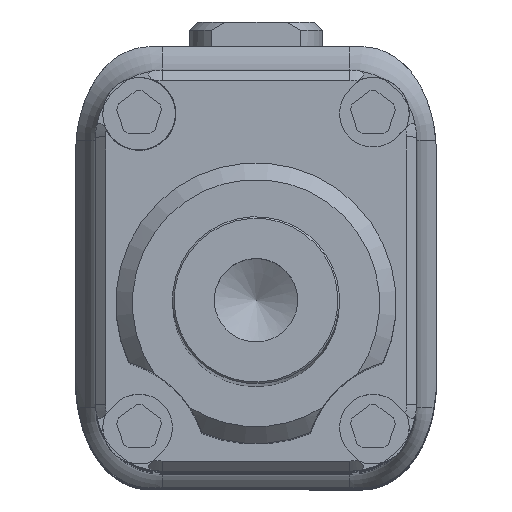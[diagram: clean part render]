
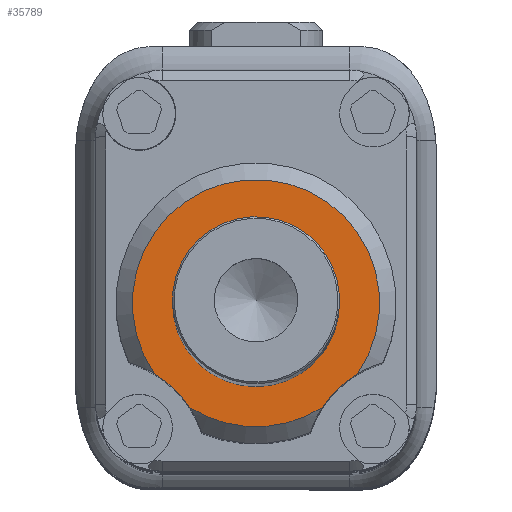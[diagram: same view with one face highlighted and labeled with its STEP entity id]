
A CAD part, top view. The second image highlights one B-rep face of the part: STEP entity #35789.
In plain terms, the highlighted planar face has unit normal (0, 0, 1).
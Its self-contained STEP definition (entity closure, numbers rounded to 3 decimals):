
#1779 = EDGE_CURVE ( 'NONE', #35997, #19241, #12672, .T. ) ;
#2363 = VERTEX_POINT ( 'NONE', #63066 ) ;
#2561 = CIRCLE ( 'NONE', #41737, 2.5 ) ;
#4497 = CARTESIAN_POINT ( 'NONE',  ( -2.471, -3.362, 87. ) ) ;
#4565 = DIRECTION ( 'NONE',  ( 1., 0., 0. ) ) ;
#5914 = CARTESIAN_POINT ( 'NONE',  ( 0.566, -1.249, 87. ) ) ;
#6948 = DIRECTION ( 'NONE',  ( 1., 0., 0. ) ) ;
#8795 = ORIENTED_EDGE ( 'NONE', *, *, #15273, .T. ) ;
#12625 = EDGE_LOOP ( 'NONE', ( #35091 ) ) ;
#12672 = CIRCLE ( 'NONE', #52943, 3.7 ) ;
#13624 = DIRECTION ( 'NONE',  ( 1., 0., 0. ) ) ;
#15273 = EDGE_CURVE ( 'NONE', #19241, #56579, #36834, .T. ) ;
#15757 = EDGE_CURVE ( 'NONE', #56579, #2363, #64414, .T. ) ;
#19241 = VERTEX_POINT ( 'NONE', #4497 ) ;
#19378 = DIRECTION ( 'NONE',  ( 0., 0., 1. ) ) ;
#23854 = DIRECTION ( 'NONE',  ( 0., 0., 1. ) ) ;
#24796 = CIRCLE ( 'NONE', #47059, 3.2 ) ;
#25680 = CARTESIAN_POINT ( 'NONE',  ( 3.604, -3.362, 87. ) ) ;
#27518 = ORIENTED_EDGE ( 'NONE', *, *, #1779, .T. ) ;
#28353 = AXIS2_PLACEMENT_3D ( 'NONE', #42663, #47657, #62916 ) ;
#28836 = CARTESIAN_POINT ( 'NONE',  ( 0.566, -1.249, 87. ) ) ;
#29666 = DIRECTION ( 'NONE',  ( 1., 0., 0. ) ) ;
#31261 = EDGE_CURVE ( 'NONE', #42262, #42262, #2561, .T. ) ;
#32870 = DIRECTION ( 'NONE',  ( 0., 0., 1. ) ) ;
#34150 = PLANE ( 'NONE',  #50176 ) ;
#35091 = ORIENTED_EDGE ( 'NONE', *, *, #31261, .F. ) ;
#35789 = ADVANCED_FACE ( 'NONE', ( #65353, #43781 ), #34150, .T. ) ;
#35997 = VERTEX_POINT ( 'NONE', #25680 ) ;
#36834 = CIRCLE ( 'NONE', #63314, 3.2 ) ;
#40169 = CARTESIAN_POINT ( 'NONE',  ( -4.1, -6.116, 87. ) ) ;
#41737 = AXIS2_PLACEMENT_3D ( 'NONE', #5914, #57381, #46431 ) ;
#42262 = VERTEX_POINT ( 'NONE', #57217 ) ;
#42663 = CARTESIAN_POINT ( 'NONE',  ( 0.566, -1.249, 87. ) ) ;
#43781 = FACE_BOUND ( 'NONE', #12625, .T. ) ;
#44609 = CARTESIAN_POINT ( 'NONE',  ( 0.566, -1.249, 87. ) ) ;
#45437 = CARTESIAN_POINT ( 'NONE',  ( -1.417, -4.373, 87. ) ) ;
#46431 = DIRECTION ( 'NONE',  ( 1., 0., 0. ) ) ;
#47059 = AXIS2_PLACEMENT_3D ( 'NONE', #52445, #32870, #6948 ) ;
#47657 = DIRECTION ( 'NONE',  ( 0., 0., 1. ) ) ;
#47676 = ORIENTED_EDGE ( 'NONE', *, *, #56321, .F. ) ;
#50176 = AXIS2_PLACEMENT_3D ( 'NONE', #28836, #23854, #4565 ) ;
#52445 = CARTESIAN_POINT ( 'NONE',  ( 5.233, -6.116, 87. ) ) ;
#52943 = AXIS2_PLACEMENT_3D ( 'NONE', #44609, #19378, #29666 ) ;
#56321 = EDGE_CURVE ( 'NONE', #35997, #2363, #24796, .T. ) ;
#56579 = VERTEX_POINT ( 'NONE', #45437 ) ;
#57217 = CARTESIAN_POINT ( 'NONE',  ( 3.066, -1.249, 87. ) ) ;
#57381 = DIRECTION ( 'NONE',  ( 0., 0., 1. ) ) ;
#59100 = DIRECTION ( 'NONE',  ( 0., 0., -1. ) ) ;
#59840 = ORIENTED_EDGE ( 'NONE', *, *, #15757, .T. ) ;
#62916 = DIRECTION ( 'NONE',  ( 1., 0., 0. ) ) ;
#63066 = CARTESIAN_POINT ( 'NONE',  ( 2.549, -4.373, 87. ) ) ;
#63314 = AXIS2_PLACEMENT_3D ( 'NONE', #40169, #59100, #13624 ) ;
#64414 = CIRCLE ( 'NONE', #28353, 3.7 ) ;
#64873 = EDGE_LOOP ( 'NONE', ( #8795, #59840, #47676, #27518 ) ) ;
#65353 = FACE_OUTER_BOUND ( 'NONE', #64873, .T. ) ;
